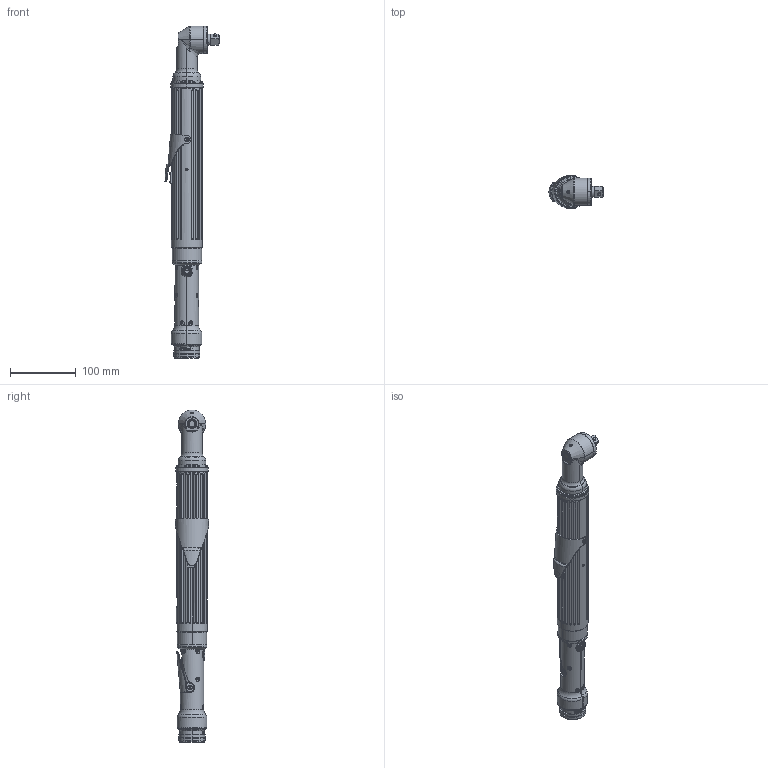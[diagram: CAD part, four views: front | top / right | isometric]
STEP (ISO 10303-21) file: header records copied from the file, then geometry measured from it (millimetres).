
FILE_DESCRIPTION (( 'STEP AP214' ), '1' );
FILE_NAME ('AEN33060CDL, AEN33090CDL.STEP', '2016-04-15T17:12:14', ( 'AIMCO' ), ( '' ), 'SwSTEP 2.0', 'SolidWorks 2016', '' );
FILE_SCHEMA (( 'AUTOMOTIVE_DESIGN' ));
Length unit declared in the file: inch
Products named in the file (1): AEN33060CDL, AEN33090CDL
Bounding box: 82.23 x 51.31 x 504.76 mm (x, y, z)
Surface area: 112341.3 mm2 (no closed solid volume)
Topology: 0 solids, 103 shells, 999 faces, 3586 edges, 2540 vertices
Faces by surface type: cylinder 250, plane 210, cone 166, bspline 163, torus 160, sphere 50
Entity records: 71863 total; most frequent: CARTESIAN_POINT 31482, ORIENTED_EDGE 5322, DIRECTION 5156, EDGE_CURVE 3502, VERTEX_POINT 2500, AXIS2_PLACEMENT_3D 2065, CIRCLE 1228, B_SPLINE_CURVE_WITH_KNOTS 1201
